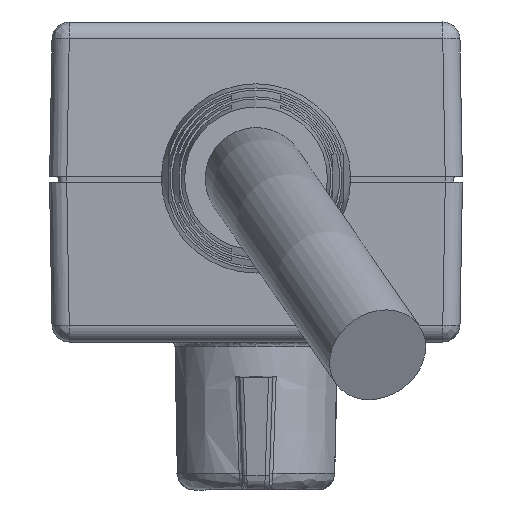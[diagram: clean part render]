
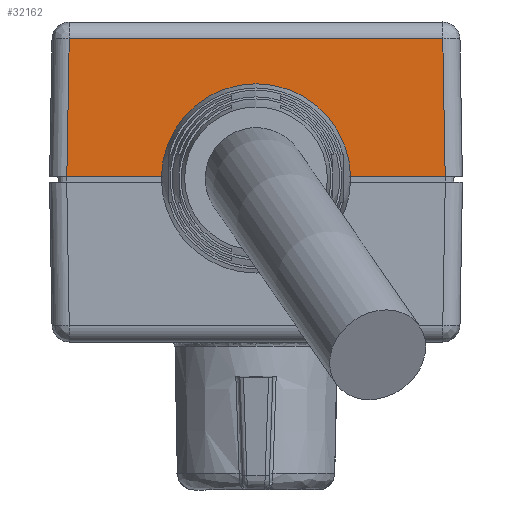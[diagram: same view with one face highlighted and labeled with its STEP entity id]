
A CAD part, front view. The second image highlights one B-rep face of the part: STEP entity #32162.
In plain terms, the highlighted planar face has unit normal (0, -1, 0.018).
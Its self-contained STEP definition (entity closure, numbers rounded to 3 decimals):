
#152=(
BOUNDED_CURVE()
B_SPLINE_CURVE(3,(#47972,#47973,#47974,#47975),.UNSPECIFIED.,.F.,.F.)
B_SPLINE_CURVE_WITH_KNOTS((4,4),(4.798,7.768),
 .UNSPECIFIED.)
CURVE()
GEOMETRIC_REPRESENTATION_ITEM()
RATIONAL_B_SPLINE_CURVE((1.,0.39,0.39,1.))
REPRESENTATION_ITEM('')
);
#3994=FACE_OUTER_BOUND('',#5871,.T.);
#5871=EDGE_LOOP('',(#27133,#27134,#27135,#27136,#27137,#27138));
#9194=LINE('',#81230,#11552);
#9198=LINE('',#81257,#11556);
#9199=LINE('',#81260,#11557);
#9200=LINE('',#81262,#11558);
#9201=LINE('',#81263,#11559);
#11552=VECTOR('',#40350,1000.);
#11556=VECTOR('',#40354,1000.);
#11557=VECTOR('',#40357,1000.);
#11558=VECTOR('',#40358,1000.);
#11559=VECTOR('',#40359,1000.);
#13055=VERTEX_POINT('',#47969);
#13056=VERTEX_POINT('',#47971);
#14282=VERTEX_POINT('',#81229);
#14289=VERTEX_POINT('',#81252);
#14290=VERTEX_POINT('',#81259);
#14291=VERTEX_POINT('',#81261);
#16570=EDGE_CURVE('',#13055,#13056,#152,.T.);
#18618=EDGE_CURVE('',#14282,#13056,#9194,.T.);
#18626=EDGE_CURVE('',#13055,#14289,#9198,.T.);
#18627=EDGE_CURVE('',#14290,#14282,#9199,.T.);
#18628=EDGE_CURVE('',#14289,#14291,#9200,.T.);
#18629=EDGE_CURVE('',#14291,#14290,#9201,.T.);
#27133=ORIENTED_EDGE('',*,*,#18627,.T.);
#27134=ORIENTED_EDGE('',*,*,#18618,.T.);
#27135=ORIENTED_EDGE('',*,*,#16570,.F.);
#27136=ORIENTED_EDGE('',*,*,#18626,.T.);
#27137=ORIENTED_EDGE('',*,*,#18628,.T.);
#27138=ORIENTED_EDGE('',*,*,#18629,.T.);
#28738=PLANE('',#34197);
#32162=ADVANCED_FACE('',(#3994),#28738,.T.);
#34197=AXIS2_PLACEMENT_3D('',#81258,#40355,#40356);
#40350=DIRECTION('',(1.,0.,0.));
#40354=DIRECTION('',(1.,0.,0.));
#40355=DIRECTION('center_axis',(0.,-1.,
0.017));
#40356=DIRECTION('ref_axis',(0.,-0.017,-1.));
#40357=DIRECTION('',(-0.017,-0.017,-1.));
#40358=DIRECTION('',(-0.017,0.017,1.));
#40359=DIRECTION('',(-1.,0.,0.));
#47969=CARTESIAN_POINT('',(3.487,-59.495,9.6));
#47971=CARTESIAN_POINT('',(-3.487,-59.495,9.6));
#47972=CARTESIAN_POINT('Ctrl Pts',(3.487,-59.495,9.6));
#47973=CARTESIAN_POINT('Ctrl Pts',(2.977,-59.391,15.532));
#47974=CARTESIAN_POINT('Ctrl Pts',(-2.977,-59.391,15.532));
#47975=CARTESIAN_POINT('Ctrl Pts',(-3.487,-59.495,
9.6));
#81229=CARTESIAN_POINT('',(-10.995,-59.495,9.6));
#81230=CARTESIAN_POINT('',(0.,-59.495,9.6));
#81252=CARTESIAN_POINT('',(10.995,-59.495,9.6));
#81257=CARTESIAN_POINT('',(0.,-59.495,9.6));
#81258=CARTESIAN_POINT('Origin',(-11.127,-59.355,17.617));
#81259=CARTESIAN_POINT('',(-10.855,-59.355,17.617));
#81260=CARTESIAN_POINT('',(-10.855,-59.355,17.617));
#81261=CARTESIAN_POINT('',(10.855,-59.355,17.617));
#81262=CARTESIAN_POINT('',(10.995,-59.495,9.6));
#81263=CARTESIAN_POINT('',(0.,-59.355,17.617));
